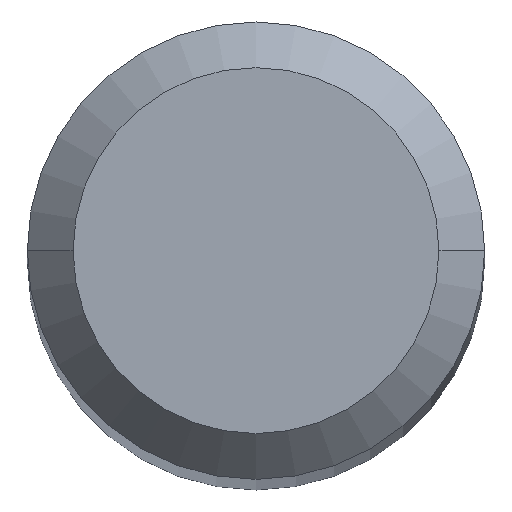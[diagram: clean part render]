
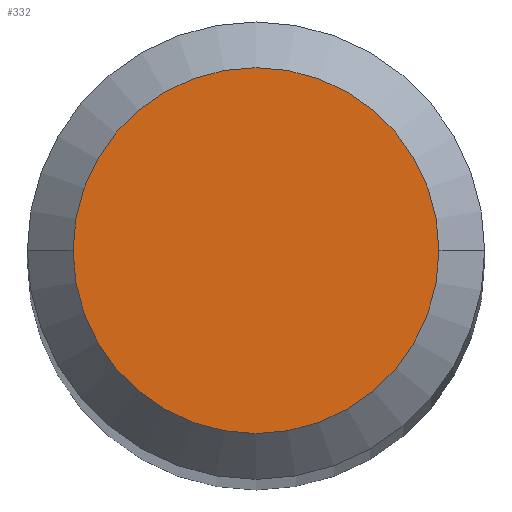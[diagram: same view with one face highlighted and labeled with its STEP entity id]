
A CAD part, top view. The second image highlights one B-rep face of the part: STEP entity #332.
In plain terms, the highlighted planar face has unit normal (0, 0, 1).
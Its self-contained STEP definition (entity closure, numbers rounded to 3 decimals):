
#25 = AXIS2_PLACEMENT_3D ( 'NONE', #389, #546, #133 ) ;
#34 = DIRECTION ( 'NONE',  ( 1., 0., 0. ) ) ;
#42 = CIRCLE ( 'NONE', #25, 1.2 ) ;
#105 = CARTESIAN_POINT ( 'NONE',  ( 0., 0., 0. ) ) ;
#133 = DIRECTION ( 'NONE',  ( -1., 0., 0. ) ) ;
#142 = DIRECTION ( 'NONE',  ( -1., 0., 0. ) ) ;
#146 = VERTEX_POINT ( 'NONE', #217 ) ;
#165 = EDGE_CURVE ( 'NONE', #320, #146, #495, .T. ) ;
#217 = CARTESIAN_POINT ( 'NONE',  ( 1.2, 0., 0. ) ) ;
#243 = PLANE ( 'NONE',  #359 ) ;
#246 = ORIENTED_EDGE ( 'NONE', *, *, #165, .F. ) ;
#311 = EDGE_LOOP ( 'NONE', ( #246, #317 ) ) ;
#317 = ORIENTED_EDGE ( 'NONE', *, *, #517, .F. ) ;
#320 = VERTEX_POINT ( 'NONE', #448 ) ;
#329 = CARTESIAN_POINT ( 'NONE',  ( 0., 1.2, 0. ) ) ;
#332 = ADVANCED_FACE ( 'NONE', ( #536 ), #243, .T. ) ;
#359 = AXIS2_PLACEMENT_3D ( 'NONE', #329, #412, #34 ) ;
#369 = AXIS2_PLACEMENT_3D ( 'NONE', #105, #435, #142 ) ;
#389 = CARTESIAN_POINT ( 'NONE',  ( 0., 0., 0. ) ) ;
#412 = DIRECTION ( 'NONE',  ( 0., 0., 1. ) ) ;
#435 = DIRECTION ( 'NONE',  ( 0., 0., -1. ) ) ;
#448 = CARTESIAN_POINT ( 'NONE',  ( -1.2, 0., 0. ) ) ;
#495 = CIRCLE ( 'NONE', #369, 1.2 ) ;
#517 = EDGE_CURVE ( 'NONE', #146, #320, #42, .T. ) ;
#536 = FACE_OUTER_BOUND ( 'NONE', #311, .T. ) ;
#546 = DIRECTION ( 'NONE',  ( 0., 0., -1. ) ) ;
